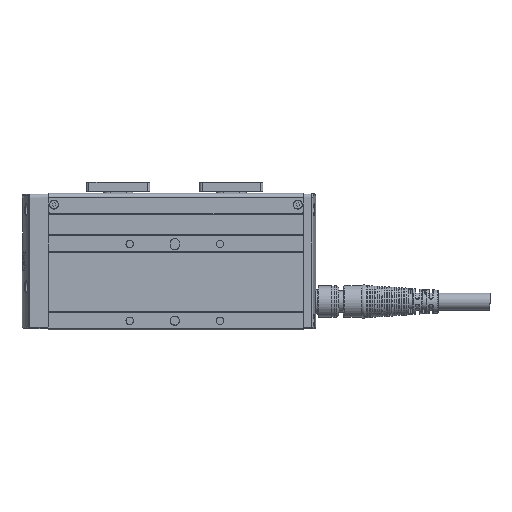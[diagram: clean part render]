
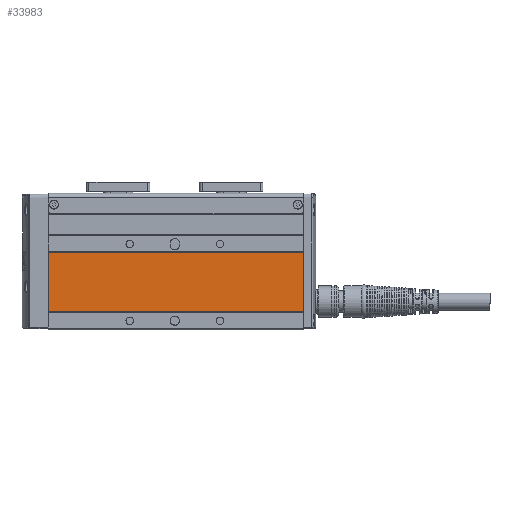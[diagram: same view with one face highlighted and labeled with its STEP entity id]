
A CAD part, top view. The second image highlights one B-rep face of the part: STEP entity #33983.
In plain terms, the highlighted planar face has unit normal (0, 0, 1).
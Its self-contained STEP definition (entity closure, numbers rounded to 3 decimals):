
#2835=PLANE('',#36390);
#4312=FACE_OUTER_BOUND('',#6179,.T.);
#6179=EDGE_LOOP('',(#24798,#24799,#24800,#24801));
#8277=LINE('',#51640,#10650);
#8323=LINE('',#51860,#10696);
#8352=LINE('',#51932,#10725);
#8353=LINE('',#51934,#10726);
#10650=VECTOR('',#41107,1000.);
#10696=VECTOR('',#41301,1000.);
#10725=VECTOR('',#41360,1000.);
#10726=VECTOR('',#41363,1000.);
#15281=VERTEX_POINT('',#51637);
#15282=VERTEX_POINT('',#51639);
#15357=VERTEX_POINT('',#51857);
#15358=VERTEX_POINT('',#51859);
#18898=EDGE_CURVE('',#15282,#15281,#8277,.T.);
#18989=EDGE_CURVE('',#15357,#15358,#8323,.T.);
#19027=EDGE_CURVE('',#15357,#15282,#8352,.T.);
#19028=EDGE_CURVE('',#15358,#15281,#8353,.T.);
#24798=ORIENTED_EDGE('',*,*,#18898,.T.);
#24799=ORIENTED_EDGE('',*,*,#19028,.F.);
#24800=ORIENTED_EDGE('',*,*,#18989,.F.);
#24801=ORIENTED_EDGE('',*,*,#19027,.T.);
#33983=ADVANCED_FACE('',(#4312),#2835,.F.);
#36390=AXIS2_PLACEMENT_3D('',#51933,#41361,#41362);
#41107=DIRECTION('',(0.,-1.,0.));
#41301=DIRECTION('',(0.,-1.,0.));
#41360=DIRECTION('',(-1.,0.,0.));
#41361=DIRECTION('center_axis',(0.,0.,
-1.));
#41362=DIRECTION('ref_axis',(0.,1.,0.));
#41363=DIRECTION('',(-1.,0.,0.));
#51637=CARTESIAN_POINT('',(-56.,8.122,16.2));
#51639=CARTESIAN_POINT('',(-56.,34.45,16.2));
#51640=CARTESIAN_POINT('',(-56.,34.45,16.2));
#51857=CARTESIAN_POINT('',(57.,34.45,16.2));
#51859=CARTESIAN_POINT('',(57.,8.122,16.2));
#51860=CARTESIAN_POINT('',(57.,34.45,16.2));
#51932=CARTESIAN_POINT('',(57.,34.45,16.2));
#51933=CARTESIAN_POINT('Origin',(57.,34.45,16.2));
#51934=CARTESIAN_POINT('',(57.,8.122,16.2));
